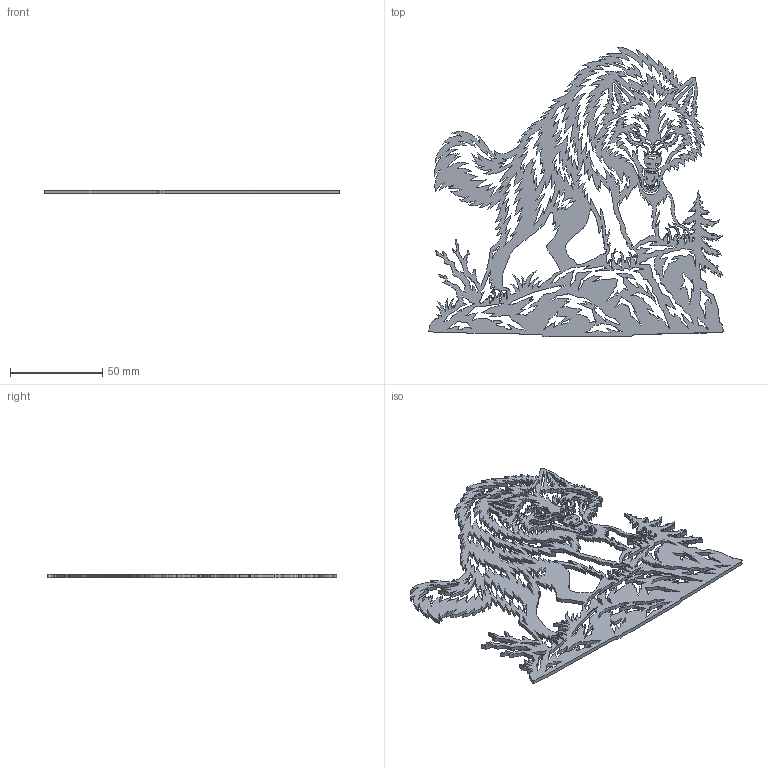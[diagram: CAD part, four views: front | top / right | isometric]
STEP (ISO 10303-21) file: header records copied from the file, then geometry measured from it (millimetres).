
FILE_DESCRIPTION(('STEP AP214'),'1');
FILE_NAME('wolf.stp','2026-10-07T11:40:39',(' '),(' '),'Spatial InterOp 3D',' ',' ');
FILE_SCHEMA(('AUTOMOTIVE_DESIGN { 1 0 10303 214 1 1 1 1 }'));
Length unit declared in the file: metre
Products named in the file (1): 1791376680
Bounding box: 160 x 157.18 x 2 mm (x, y, z)
Volume: 20161.3 mm3; surface area: 35040 mm2
Topology: 1 solids, 1 shells, 1175 faces, 3519 edges, 2346 vertices
Faces by surface type: extrusion 1167, plane 8
Entity records: 66533 total; most frequent: CARTESIAN_POINT 29949, ORIENTED_EDGE 6984, EDGE_CURVE 3492, B_SPLINE_CURVE_WITH_KNOTS 3372, VERTEX_POINT 2346, DIRECTION 2343, VECTOR 2325, EDGE_LOOP 1388
